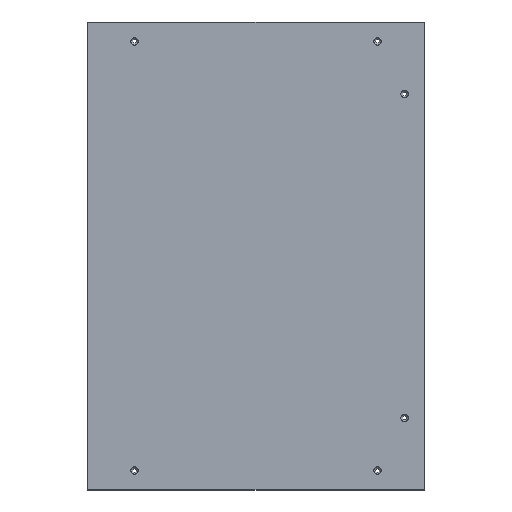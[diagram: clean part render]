
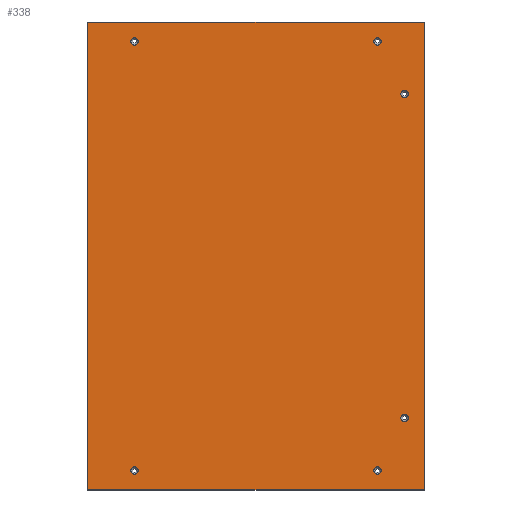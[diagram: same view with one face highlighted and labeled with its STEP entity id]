
A CAD part, top view. The second image highlights one B-rep face of the part: STEP entity #338.
In plain terms, the highlighted planar face has unit normal (0, 0, 1).
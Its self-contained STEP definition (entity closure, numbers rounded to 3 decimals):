
#4 = CARTESIAN_POINT ( 'NONE',  ( -150., -265., 2. ) ) ;
#8 = CARTESIAN_POINT ( 'NONE',  ( 145.5, 265., 2. ) ) ;
#10 = EDGE_LOOP ( 'NONE', ( #427 ) ) ;
#15 = CARTESIAN_POINT ( 'NONE',  ( -207.5, -289., 2. ) ) ;
#23 = DIRECTION ( 'NONE',  ( 1., 0., 0. ) ) ;
#26 = LINE ( 'NONE', #104, #493 ) ;
#45 = ORIENTED_EDGE ( 'NONE', *, *, #170, .T. ) ;
#46 = AXIS2_PLACEMENT_3D ( 'NONE', #81, #385, #553 ) ;
#57 = CARTESIAN_POINT ( 'NONE',  ( 207.5, -289., 2. ) ) ;
#58 = EDGE_CURVE ( 'NONE', #79, #116, #292, .T. ) ;
#60 = CIRCLE ( 'NONE', #407, 4.5 ) ;
#72 = VERTEX_POINT ( 'NONE', #244 ) ;
#73 = ORIENTED_EDGE ( 'NONE', *, *, #74, .T. ) ;
#74 = EDGE_CURVE ( 'NONE', #72, #72, #531, .T. ) ;
#75 = VERTEX_POINT ( 'NONE', #8 ) ;
#76 = ORIENTED_EDGE ( 'NONE', *, *, #195, .T. ) ;
#79 = VERTEX_POINT ( 'NONE', #163 ) ;
#81 = CARTESIAN_POINT ( 'NONE',  ( 183.5, 200., 2. ) ) ;
#96 = CARTESIAN_POINT ( 'NONE',  ( 145.5, -265., 2. ) ) ;
#101 = CIRCLE ( 'NONE', #431, 4.5 ) ;
#104 = CARTESIAN_POINT ( 'NONE',  ( -207.5, -289., 2. ) ) ;
#105 = ORIENTED_EDGE ( 'NONE', *, *, #58, .T. ) ;
#107 = FACE_OUTER_BOUND ( 'NONE', #535, .T. ) ;
#116 = VERTEX_POINT ( 'NONE', #358 ) ;
#117 = EDGE_CURVE ( 'NONE', #116, #126, #306, .T. ) ;
#126 = VERTEX_POINT ( 'NONE', #478 ) ;
#135 = EDGE_LOOP ( 'NONE', ( #45 ) ) ;
#138 = LINE ( 'NONE', #312, #503 ) ;
#146 = FACE_BOUND ( 'NONE', #460, .T. ) ;
#151 = FACE_BOUND ( 'NONE', #135, .T. ) ;
#153 = CARTESIAN_POINT ( 'NONE',  ( 0., 0., 2. ) ) ;
#156 = ORIENTED_EDGE ( 'NONE', *, *, #117, .T. ) ;
#158 = CIRCLE ( 'NONE', #214, 4.5 ) ;
#163 = CARTESIAN_POINT ( 'NONE',  ( 207.5, 289., 2. ) ) ;
#170 = EDGE_CURVE ( 'NONE', #203, #203, #101, .T. ) ;
#179 = AXIS2_PLACEMENT_3D ( 'NONE', #393, #269, #403 ) ;
#191 = EDGE_CURVE ( 'NONE', #75, #75, #158, .T. ) ;
#195 = EDGE_CURVE ( 'NONE', #485, #485, #423, .T. ) ;
#196 = DIRECTION ( 'NONE',  ( 0., 1., 0. ) ) ;
#198 = AXIS2_PLACEMENT_3D ( 'NONE', #153, #230, #280 ) ;
#203 = VERTEX_POINT ( 'NONE', #378 ) ;
#212 = DIRECTION ( 'NONE',  ( -1., 0., 0. ) ) ;
#214 = AXIS2_PLACEMENT_3D ( 'NONE', #355, #317, #399 ) ;
#216 = VERTEX_POINT ( 'NONE', #57 ) ;
#223 = ORIENTED_EDGE ( 'NONE', *, *, #442, .T. ) ;
#230 = DIRECTION ( 'NONE',  ( 0., 0., -1. ) ) ;
#236 = EDGE_LOOP ( 'NONE', ( #223 ) ) ;
#242 = PLANE ( 'NONE',  #198 ) ;
#244 = CARTESIAN_POINT ( 'NONE',  ( 179., 200., 2. ) ) ;
#246 = DIRECTION ( 'NONE',  ( 0., 0., -1. ) ) ;
#248 = VECTOR ( 'NONE', #425, 1000. ) ;
#258 = AXIS2_PLACEMENT_3D ( 'NONE', #556, #246, #212 ) ;
#262 = VERTEX_POINT ( 'NONE', #96 ) ;
#265 = DIRECTION ( 'NONE',  ( 0., -1., 0. ) ) ;
#266 = EDGE_CURVE ( 'NONE', #216, #79, #138, .T. ) ;
#269 = DIRECTION ( 'NONE',  ( 0., 0., -1. ) ) ;
#272 = EDGE_CURVE ( 'NONE', #126, #216, #26, .T. ) ;
#280 = DIRECTION ( 'NONE',  ( -1., 0., 0. ) ) ;
#292 = LINE ( 'NONE', #298, #248 ) ;
#298 = CARTESIAN_POINT ( 'NONE',  ( -207.5, 289., 2. ) ) ;
#306 = LINE ( 'NONE', #15, #475 ) ;
#310 = VERTEX_POINT ( 'NONE', #523 ) ;
#312 = CARTESIAN_POINT ( 'NONE',  ( 207.5, -289., 2. ) ) ;
#317 = DIRECTION ( 'NONE',  ( 0., 0., -1. ) ) ;
#338 = ADVANCED_FACE ( 'NONE', ( #374, #146, #408, #544, #534, #151, #107 ), #242, .F. ) ;
#340 = EDGE_LOOP ( 'NONE', ( #73 ) ) ;
#341 = DIRECTION ( 'NONE',  ( 0., 0., -1. ) ) ;
#354 = CARTESIAN_POINT ( 'NONE',  ( -154.5, 265., 2. ) ) ;
#355 = CARTESIAN_POINT ( 'NONE',  ( 150., 265., 2. ) ) ;
#358 = CARTESIAN_POINT ( 'NONE',  ( -207.5, 289., 2. ) ) ;
#360 = DIRECTION ( 'NONE',  ( -1., 0., 0. ) ) ;
#374 = FACE_BOUND ( 'NONE', #10, .T. ) ;
#378 = CARTESIAN_POINT ( 'NONE',  ( -154.5, -265., 2. ) ) ;
#385 = DIRECTION ( 'NONE',  ( 0., 0., -1. ) ) ;
#393 = CARTESIAN_POINT ( 'NONE',  ( -150., 265., 2. ) ) ;
#399 = DIRECTION ( 'NONE',  ( -1., 0., 0. ) ) ;
#403 = DIRECTION ( 'NONE',  ( -1., 0., 0. ) ) ;
#407 = AXIS2_PLACEMENT_3D ( 'NONE', #506, #341, #465 ) ;
#408 = FACE_BOUND ( 'NONE', #340, .T. ) ;
#418 = ORIENTED_EDGE ( 'NONE', *, *, #272, .T. ) ;
#423 = CIRCLE ( 'NONE', #179, 4.5 ) ;
#425 = DIRECTION ( 'NONE',  ( -1., 0., 0. ) ) ;
#427 = ORIENTED_EDGE ( 'NONE', *, *, #191, .T. ) ;
#431 = AXIS2_PLACEMENT_3D ( 'NONE', #4, #520, #360 ) ;
#442 = EDGE_CURVE ( 'NONE', #262, #262, #60, .T. ) ;
#460 = EDGE_LOOP ( 'NONE', ( #76 ) ) ;
#465 = DIRECTION ( 'NONE',  ( -1., 0., 0. ) ) ;
#475 = VECTOR ( 'NONE', #265, 1000. ) ;
#478 = CARTESIAN_POINT ( 'NONE',  ( -207.5, -289., 2. ) ) ;
#485 = VERTEX_POINT ( 'NONE', #354 ) ;
#493 = VECTOR ( 'NONE', #23, 1000. ) ;
#501 = EDGE_LOOP ( 'NONE', ( #511 ) ) ;
#503 = VECTOR ( 'NONE', #196, 1000. ) ;
#506 = CARTESIAN_POINT ( 'NONE',  ( 150., -265., 2. ) ) ;
#511 = ORIENTED_EDGE ( 'NONE', *, *, #527, .T. ) ;
#520 = DIRECTION ( 'NONE',  ( 0., 0., -1. ) ) ;
#523 = CARTESIAN_POINT ( 'NONE',  ( 179., -200., 2. ) ) ;
#527 = EDGE_CURVE ( 'NONE', #310, #310, #551, .T. ) ;
#531 = CIRCLE ( 'NONE', #46, 4.5 ) ;
#534 = FACE_BOUND ( 'NONE', #236, .T. ) ;
#535 = EDGE_LOOP ( 'NONE', ( #541, #105, #156, #418 ) ) ;
#541 = ORIENTED_EDGE ( 'NONE', *, *, #266, .T. ) ;
#544 = FACE_BOUND ( 'NONE', #501, .T. ) ;
#551 = CIRCLE ( 'NONE', #258, 4.5 ) ;
#553 = DIRECTION ( 'NONE',  ( -1., 0., 0. ) ) ;
#556 = CARTESIAN_POINT ( 'NONE',  ( 183.5, -200., 2. ) ) ;
